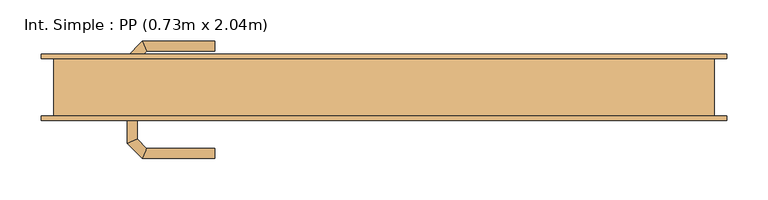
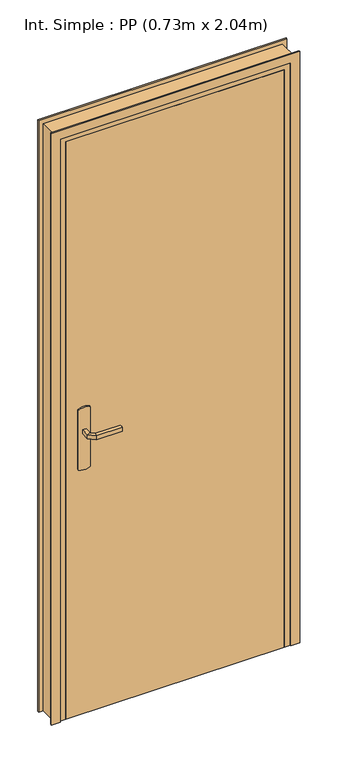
"""IFC4 building model written with IfcOpenShell, lengths in millimetres: door geometry, Int. Simple : PP (0.73m x 2.04m)."""

from ifc_helpers import new_model, si_unit, point, frame, frame_2d, origin, origin_with_axes, place, context, project, spatial, polyline, circle_curve, ellipse_curve, trimmed, segment, composite_curve, outline, extrude, faceted_brep, source, transform, mapped, element, save
from ifc_brep_helpers import plane_surface, cylinder_surface, advanced_brep


def int_simple_pp_0_73m_x_2_04m_0234ae46(model_context):
    return source(origin(), model_context, "Body", "SolidModel", [
        extrude(outline(composite_curve([segment(trimmed(circle_curve(frame_2d((904.6410162, -340.0)), 40.0), [point((870.0, -360.0))], [point((870.0, -320.0))], False, "CARTESIAN"), True, "CONTINUOUS"), segment(polyline([(870.0, -320.0), (1080.0, -320.0)]), True, "CONTINUOUS"), segment(trimmed(circle_curve(frame_2d((1045.3589838, -340.0)), 40.0), [point((1080.0, -320.0))], [point((1080.0, -360.0))], False, "CARTESIAN"), True, "CONTINUOUS"), segment(polyline([(1080.0, -360.0), (870.0, -360.0)]), True, "CONTINUOUS")], self_intersect=False)), frame((0.0, -40.0, 0.0), z_axis=(0.0, 1.0, 0.0), x_axis=(0.0, 0.0, 1.0)), (0.0, 0.0, 1.0), 5.0),
        extrude(outline(composite_curve([segment(trimmed(circle_curve(frame_2d((1045.3589838, -340.0)), 40.0), [point((1080.0, -320.0))], [point((1080.0, -360.0))], False, "CARTESIAN"), True, "CONTINUOUS"), segment(polyline([(1080.0, -360.0), (870.0, -360.0)]), True, "CONTINUOUS"), segment(trimmed(circle_curve(frame_2d((904.6410162, -340.0)), 40.0), [point((870.0, -360.0))], [point((870.0, -320.0))], False, "CARTESIAN"), True, "CONTINUOUS"), segment(polyline([(870.0, -320.0), (1080.0, -320.0)]), True, "CONTINUOUS")], self_intersect=False)), frame((0.0, 5.0, 0.0), z_axis=(0.0, 1.0, 0.0), x_axis=(0.0, 0.0, 1.0)), (0.0, 0.0, 1.0), 5.0),
        advanced_brep(
        [(-346.0, -40.0, 1007.0), (-334.0, -40.0, 1007.0), (-334.0, -40.0, 993.0), (-346.0, -40.0, 993.0), (-346.0, -67.6509507, 1007.0), (-334.0, -62.680388, 1007.0), (-334.0, -62.680388, 993.0), (-346.0, -67.6509507, 993.0), (-327.62279, -86.0281607, 1007.0), (-322.6522273, -74.0281607, 1007.0), (-322.6522273, -74.0281607, 993.0), (-327.62279, -86.0281607, 993.0), (-239.9813594, -86.0281607, 1007.0), (-239.9813594, -86.0281607, 993.0), (-239.9813594, -74.0281607, 993.0), (-239.9813594, -74.0281607, 1007.0)],
        [
            (0, 1, circle_curve(frame((-340.0, -40.0, 986.9542278), z_axis=(0.0, 1.0, 0.0), x_axis=(1.0, 0.0, 0.0)), 20.9244589)),
            (1, 2),
            (2, 3, circle_curve(frame((-340.0, -40.0, 1013.0457722), z_axis=(0.0, 1.0, 0.0), x_axis=(1.0, 0.0, 0.0)), 20.9244589)),
            (3, 0),
            (0, 4),
            (4, 5, ellipse_curve(frame((-340.0, -65.1656693, 986.9542278), z_axis=(-0.3826834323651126, 0.9238795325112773, 0.0), x_axis=(0.9238795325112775, 0.38268343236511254, 0.0)), 22.6484711, 20.9244589)),
            (5, 1),
            (5, 6),
            (6, 2),
            (6, 7, ellipse_curve(frame((-340.0, -65.1656693, 1013.0457722), z_axis=(-0.3826834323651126, 0.9238795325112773, 0.0), x_axis=(0.9238795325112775, 0.38268343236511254, 0.0)), 22.6484711, 20.9244589)),
            (7, 3),
            (7, 4),
            (4, 8),
            (8, 9, ellipse_curve(frame((-325.1375086, -80.0281607, 986.9542278), z_axis=(-0.9238795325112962, 0.38268343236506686, 0.0), x_axis=(0.3826834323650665, 0.9238795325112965, 0.0)), 22.6484711, 20.9244589)),
            (9, 5),
            (9, 10),
            (10, 6),
            (10, 11, ellipse_curve(frame((-325.1375086, -80.0281607, 1013.0457722), z_axis=(-0.9238795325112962, 0.38268343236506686, 0.0), x_axis=(0.3826834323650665, 0.9238795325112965, 0.0)), 22.6484711, 20.9244589)),
            (11, 7),
            (11, 8),
            (12, 13),
            (13, 14, circle_curve(frame((-239.9813594, -80.0281607, 1013.0457722), z_axis=(1.0, 0.0, 0.0), x_axis=(0.0, 1.0, 0.0)), 20.9244589)),
            (14, 15),
            (15, 12, circle_curve(frame((-239.9813594, -80.0281607, 986.9542278), z_axis=(1.0, 0.0, 0.0), x_axis=(0.0, 1.0, 0.0)), 20.9244589)),
            (8, 12),
            (15, 9),
            (14, 10),
            (13, 11),
        ],
        [
            plane_surface(frame((-349.2195445, -40.0, 1000.0), z_axis=(0.0, 1.0, 0.0), x_axis=(0.0, 0.0, -1.0))),
            cylinder_surface(frame((-340.0, -40.0, 986.9542278), z_axis=(0.0, 1.0, 0.0), x_axis=(1.0, 0.0, 0.0)), 20.9244589),
            plane_surface(frame((-334.0, -40.0, 1007.0), z_axis=(1.0, 0.0, 0.0), x_axis=(0.0, -1.0, 0.0))),
            cylinder_surface(frame((-340.0, -40.0, 1013.0457722), z_axis=(0.0, 1.0, 0.0), x_axis=(1.0, 0.0, 0.0)), 20.9244589),
            plane_surface(frame((-346.0, -40.0, 993.0), z_axis=(-1.0, 0.0, 0.0), x_axis=(0.0, -1.0, 0.0))),
            cylinder_surface(frame((-340.0, -65.1656693, 986.9542278), z_axis=(-0.7071067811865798, 0.7071067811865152, 0.0), x_axis=(0.7071067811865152, 0.7071067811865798, 0.0)), 20.9244589),
            plane_surface(frame((-334.0, -62.680388, 1007.0), z_axis=(0.7071067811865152, 0.7071067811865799, 0.0), x_axis=(0.7071067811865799, -0.7071067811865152, 0.0))),
            cylinder_surface(frame((-340.0, -65.1656693, 1013.0457722), z_axis=(-0.7071067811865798, 0.7071067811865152, 0.0), x_axis=(0.7071067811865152, 0.7071067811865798, 0.0)), 20.9244589),
            plane_surface(frame((-346.0, -67.6509507, 993.0), z_axis=(-0.7071067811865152, -0.7071067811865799, 0.0), x_axis=(0.7071067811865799, -0.7071067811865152, 0.0))),
            plane_surface(frame((-239.9813594, -80.0281607, 990.7804555), z_axis=(1.0, 0.0, 0.0), x_axis=(0.0, 1.0, 0.0))),
            cylinder_surface(frame((-325.1375086, -80.0281607, 986.9542278), z_axis=(-1.0, 0.0, 0.0), x_axis=(0.0, 1.0, 0.0)), 20.9244589),
            plane_surface(frame((-322.6522273, -74.0281607, 1007.0), z_axis=(0.0, 1.0, 0.0), x_axis=(1.0, 0.0, 0.0))),
            cylinder_surface(frame((-325.1375086, -80.0281607, 1013.0457722), z_axis=(-1.0, 0.0, 0.0), x_axis=(0.0, 1.0, 0.0)), 20.9244589),
            plane_surface(frame((-327.62279, -86.0281607, 993.0), z_axis=(0.0, -1.0, 0.0), x_axis=(1.0, 0.0, 0.0))),
        ],
        [
            (0, [[1, 2, 3, 4]]),
            (1, [[-1, 5, 6, 7]]),
            (2, [[-2, -7, 8, 9]]),
            (3, [[-3, -9, 10, 11]]),
            (4, [[-4, -11, 12, -5]]),
            (5, [[-6, 13, 14, 15]]),
            (6, [[-8, -15, 16, 17]]),
            (7, [[-10, -17, 18, 19]]),
            (8, [[-12, -19, 20, -13]]),
            (9, [[21, 22, 23, 24]]),
            (10, [[-14, 25, -24, 26]]),
            (11, [[-16, -26, -23, 27]]),
            (12, [[-18, -27, -22, 28]]),
            (13, [[-20, -28, -21, -25]]),
        ],
    ),
        advanced_brep(
        [(-334.0, 10.0, 993.0), (-334.0, 10.0, 1007.0), (-346.0, 10.0, 1007.0), (-346.0, 10.0, 993.0), (-334.0, 32.4852045, 993.0), (-334.0, 32.4852045, 1007.0), (-346.0, 37.4557673, 1007.0), (-346.0, 37.4557673, 993.0), (-322.5147186, 43.9704859, 993.0), (-322.5147186, 43.9704859, 1007.0), (-327.4852814, 55.9704859, 1007.0), (-327.4852814, 55.9704859, 993.0), (-239.9542163, 43.9704859, 993.0), (-239.9542163, 55.9704859, 993.0), (-239.9542163, 55.9704859, 1007.0), (-239.9542163, 43.9704859, 1007.0)],
        [
            (0, 1),
            (1, 2, circle_curve(frame((-340.0, 10.0, 986.9542278), z_axis=(0.0, -1.0, 0.0), x_axis=(-1.0, 0.0, 0.0)), 20.9244589)),
            (2, 3),
            (3, 0, circle_curve(frame((-340.0, 10.0, 1013.0457722), z_axis=(0.0, -1.0, 0.0), x_axis=(-1.0, 0.0, 0.0)), 20.9244589)),
            (0, 4),
            (4, 5),
            (5, 1),
            (5, 6, ellipse_curve(frame((-340.0, 34.9704859, 986.9542278), z_axis=(-0.3826834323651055, -0.9238795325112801, 0.0), x_axis=(0.9238795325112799, -0.3826834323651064, 0.0)), 22.6484711, 20.9244589)),
            (6, 2),
            (6, 7),
            (7, 3),
            (7, 4, ellipse_curve(frame((-340.0, 34.9704859, 1013.0457722), z_axis=(-0.3826834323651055, -0.9238795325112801, 0.0), x_axis=(0.9238795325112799, -0.3826834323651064, 0.0)), 22.6484711, 20.9244589)),
            (4, 8),
            (8, 9),
            (9, 5),
            (9, 10, ellipse_curve(frame((-325.0, 49.9704859, 986.9542278), z_axis=(-0.9238795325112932, -0.382683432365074, 0.0), x_axis=(0.3826834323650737, -0.9238795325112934, 0.0)), 22.6484711, 20.9244589)),
            (10, 6),
            (10, 11),
            (11, 7),
            (11, 8, ellipse_curve(frame((-325.0, 49.9704859, 1013.0457722), z_axis=(-0.9238795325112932, -0.382683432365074, 0.0), x_axis=(0.3826834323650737, -0.9238795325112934, 0.0)), 22.6484711, 20.9244589)),
            (12, 13, circle_curve(frame((-239.9542163, 49.9704859, 1013.0457722), z_axis=(1.0, 0.0, 0.0), x_axis=(0.0, 1.0, 0.0)), 20.9244589)),
            (13, 14),
            (14, 15, circle_curve(frame((-239.9542163, 49.9704859, 986.9542278), z_axis=(1.0, 0.0, 0.0), x_axis=(0.0, 1.0, 0.0)), 20.9244589)),
            (15, 12),
            (8, 12),
            (15, 9),
            (14, 10),
            (13, 11),
        ],
        [
            plane_surface(frame((-349.2195445, 10.0, 1000.0), z_axis=(0.0, -1.0, 0.0), x_axis=(0.0, 0.0, 1.0))),
            plane_surface(frame((-334.0, 10.0, 993.0), z_axis=(1.0, 0.0, 0.0), x_axis=(0.0, 1.0, 0.0))),
            cylinder_surface(frame((-340.0, 10.0, 986.9542278), z_axis=(0.0, -1.0, 0.0), x_axis=(-1.0, 0.0, 0.0)), 20.9244589),
            plane_surface(frame((-346.0, 10.0, 1007.0), z_axis=(-1.0, 0.0, 0.0), x_axis=(0.0, 1.0, 0.0))),
            cylinder_surface(frame((-340.0, 10.0, 1013.0457722), z_axis=(0.0, -1.0, 0.0), x_axis=(-1.0, 0.0, 0.0)), 20.9244589),
            plane_surface(frame((-334.0, 32.4852045, 993.0), z_axis=(0.7071067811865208, -0.7071067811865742, 0.0), x_axis=(0.7071067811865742, 0.7071067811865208, 0.0))),
            cylinder_surface(frame((-340.0, 34.9704859, 986.9542278), z_axis=(-0.7071067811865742, -0.7071067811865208, 0.0), x_axis=(-0.7071067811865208, 0.7071067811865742, 0.0)), 20.9244589),
            plane_surface(frame((-346.0, 37.4557673, 1007.0), z_axis=(-0.7071067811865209, 0.7071067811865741, 0.0), x_axis=(0.7071067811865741, 0.7071067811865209, 0.0))),
            cylinder_surface(frame((-340.0, 34.9704859, 1013.0457722), z_axis=(-0.7071067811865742, -0.7071067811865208, 0.0), x_axis=(-0.7071067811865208, 0.7071067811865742, 0.0)), 20.9244589),
            plane_surface(frame((-239.9542163, 49.9704859, 990.7804555), z_axis=(1.0, 0.0, 0.0), x_axis=(0.0, 1.0, 0.0))),
            plane_surface(frame((-322.5147186, 43.9704859, 993.0), z_axis=(0.0, -1.0, 0.0), x_axis=(1.0, 0.0, 0.0))),
            cylinder_surface(frame((-325.0, 49.9704859, 986.9542278), z_axis=(-1.0, 0.0, 0.0), x_axis=(0.0, 1.0, 0.0)), 20.9244589),
            plane_surface(frame((-327.4852814, 55.9704859, 1007.0), z_axis=(0.0, 1.0, 0.0), x_axis=(1.0, 0.0, 0.0))),
            cylinder_surface(frame((-325.0, 49.9704859, 1013.0457722), z_axis=(-1.0, 0.0, 0.0), x_axis=(0.0, 1.0, 0.0)), 20.9244589),
        ],
        [
            (0, [[1, 2, 3, 4]]),
            (1, [[-1, 5, 6, 7]]),
            (2, [[-2, -7, 8, 9]]),
            (3, [[-3, -9, 10, 11]]),
            (4, [[-4, -11, 12, -5]]),
            (5, [[-6, 13, 14, 15]]),
            (6, [[-8, -15, 16, 17]]),
            (7, [[-10, -17, 18, 19]]),
            (8, [[-12, -19, 20, -13]]),
            (9, [[21, 22, 23, 24]]),
            (10, [[-14, 25, -24, 26]]),
            (11, [[-16, -26, -23, 27]]),
            (12, [[-18, -27, -22, 28]]),
            (13, [[-20, -28, -21, -25]]),
        ],
    ),
        extrude(outline(polyline([(-400.0, 5.0), (330.0, 5.0), (330.0, -35.0), (-400.0, -35.0), (-400.0, 5.0)])), origin_with_axes(), (0.0, 0.0, 1.0), 2040.0),
        faceted_brep([(-435.0, -35.0, 0.0), (-435.0, 35.0, 0.0), (-385.0, 35.0, 0.0), (-385.0, 5.0, 0.0), (-400.0, 5.0, 0.0), (-400.0, -35.0, 0.0), (-435.0, -35.0, 2075.0), (-435.0, 35.0, 2075.0), (365.0, 35.0, 2075.0), (365.0, 35.0, 0.0), (315.0, 35.0, 0.0), (315.0, 35.0, 2025.0), (-385.0, 35.0, 2025.0), (-385.0, 5.0, 2025.0), (315.0, 5.0, 2025.0), (315.0, 5.0, 0.0), (330.0, 5.0, 0.0), (330.0, 5.0, 2040.0), (-400.0, 5.0, 2040.0), (-400.0, -35.0, 2040.0), (330.0, -35.0, 2040.0), (330.0, -35.0, 0.0), (365.0, -35.0, 0.0), (365.0, -35.0, 2075.0)], [[[0, 1, 2, 3, 4, 5]], [[1, 0, 6, 7]], [[2, 1, 7, 8, 9, 10, 11, 12]], [[3, 2, 12, 13]], [[4, 3, 13, 14, 15, 16, 17, 18]], [[5, 4, 18, 19]], [[0, 5, 19, 20, 21, 22, 23, 6]], [[8, 23, 22, 9]], [[22, 21, 16, 15, 10, 9]], [[14, 11, 10, 15]], [[20, 17, 16, 21]], [[7, 6, 23, 8]], [[13, 12, 11, 14]], [[19, 18, 17, 20]]]),
        extrude(outline(polyline([(0.0, -450.0), (0.0, -420.0), (2060.0, -420.0), (2060.0, 350.0), (0.0, 350.0), (0.0, 380.0), (2090.0, 380.0), (2090.0, -450.0), (0.0, -450.0)])), frame((0.0, -40.0, 0.0), z_axis=(0.0, 1.0, 0.0), x_axis=(0.0, 0.0, 1.0)), (0.0, 0.0, 1.0), 5.0),
        extrude(outline(polyline([(0.0, -450.0), (0.0, -420.0), (2060.0, -420.0), (2060.0, 350.0), (0.0, 350.0), (0.0, 380.0), (2090.0, 380.0), (2090.0, -450.0), (0.0, -450.0)])), frame((0.0, 35.0, 0.0), z_axis=(0.0, 1.0, 0.0), x_axis=(0.0, 0.0, 1.0)), (0.0, 0.0, 1.0), 5.0),
    ])


if __name__ == "__main__":
    model = new_model("IFC4")
    model_context = context("Model", 3, world=origin())
    ifc_project = project(units=[si_unit("LENGTHUNIT", "METRE", prefix="MILLI")], contexts=[model_context])
    site = spatial("IfcSite", under=ifc_project)
    building = spatial("IfcBuilding", under=site)
    placement = place(None, origin())
    int_simple_pp_0_73m_x_2_04m_shape = int_simple_pp_0_73m_x_2_04m_0234ae46(model_context)
    element("IfcDoor", 1, ObjectType="Int. Simple : PP (0.73m x 2.04m)", at=placement, inside=building, context=model_context, shape_type="MappedRepresentation", body=[
        mapped(int_simple_pp_0_73m_x_2_04m_shape, transform((0.0, 0.0, 0.0), x_axis=(1.0, 0.0, 0.0), y_axis=(0.0, 1.0, 0.0), z_axis=(0.0, 0.0, 1.0))),
    ])
    save(model, "model.ifc")
